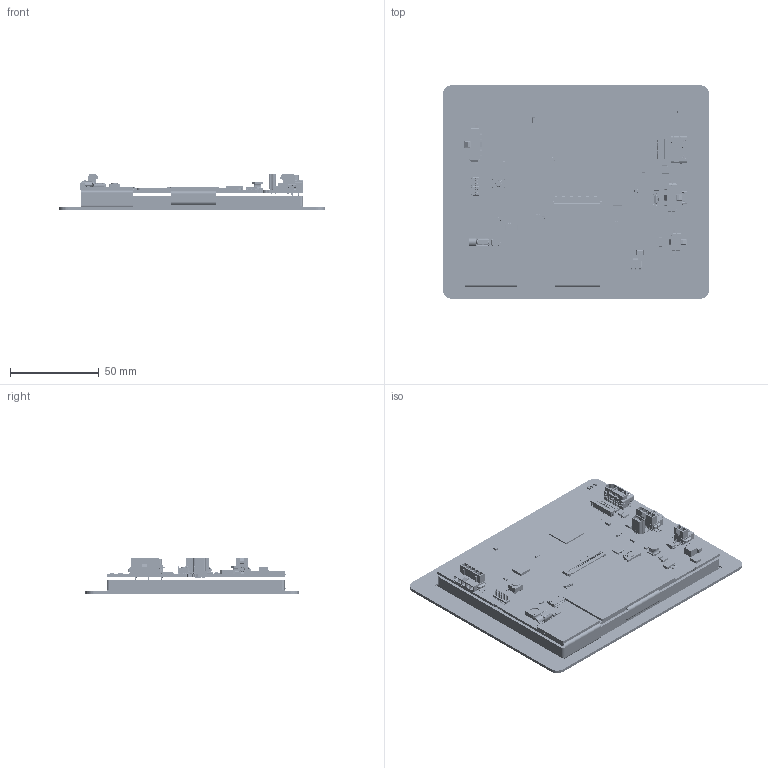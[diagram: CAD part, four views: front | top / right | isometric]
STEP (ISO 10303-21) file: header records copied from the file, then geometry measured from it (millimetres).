
FILE_DESCRIPTION (( 'STEP AP214' ), '1' );
FILE_NAME ('HTT57G-6640480W Rev. A.STEP', '2025-02-07T22:45:33', ( '' ), ( '' ), 'SwSTEP 2.0', 'SolidWorks 2021', '' );
FILE_SCHEMA (( 'AUTOMOTIVE_DESIGN' ));
Length unit declared in the file: millimetre
Products named in the file (4): HTT57G-6640480W Rev. A; HTT57G-6640480W R1.0.0; MOPTFT640480-72; TPN10170 - WF57A5SYAFDNN0# TPC(G) Formed Tail
Assembly tree (3 placements, depth 2):
  HTT57G-6640480W Rev. A
    HTT57G-6640480W R1.0.0
    MOPTFT640480-72
    TPN10170 - WF57A5SYAFDNN0# TPC(G) Formed Tail
Bounding box: 150 x 120 x 20.29 mm (x, y, z)
Volume: 110537.5 mm3; surface area: 152519.2 mm2
Topology: 9 solids, 255 shells, 15859 faces, 43855 edges, 28171 vertices
Faces by surface type: plane 11222, cylinder 3491, bspline 892, sphere 150, torus 62, cone 42
Entity records: 694917 total; most frequent: CARTESIAN_POINT 119397, ORIENTED_EDGE 87456, DIRECTION 78147, EDGE_CURVE 43761, VECTOR 34415, LINE 34415, VERTEX_POINT 28161, AXIS2_PLACEMENT_3D 21866
